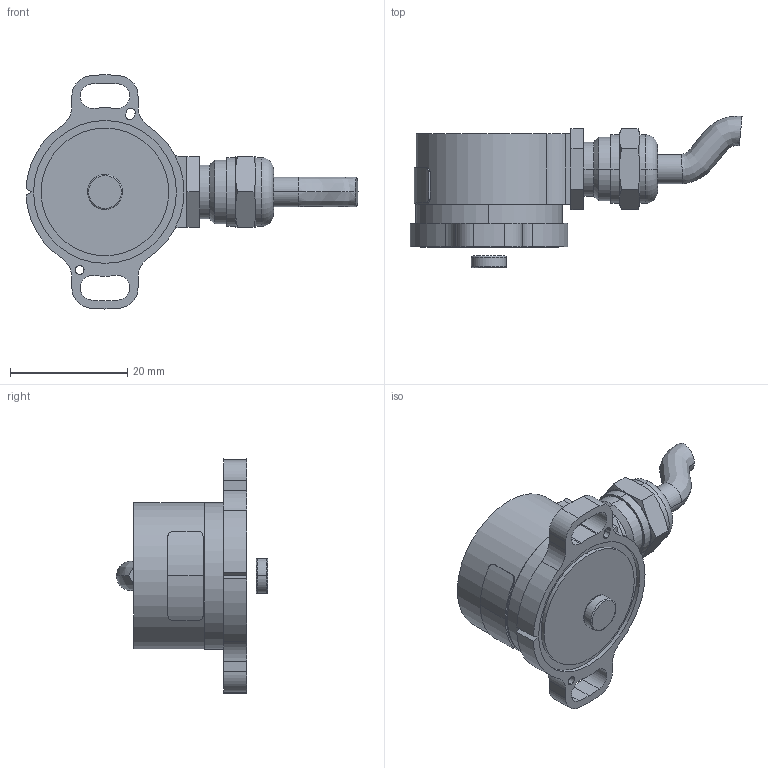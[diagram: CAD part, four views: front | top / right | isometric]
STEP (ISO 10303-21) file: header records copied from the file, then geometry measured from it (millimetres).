
FILE_DESCRIPTION (( 'STEP AP203' ), '1' );
FILE_NAME ('HTx Kit PG R S.STEP', '2022-07-29T10:27:13', ( '' ), ( '' ), 'SwSTEP 2.0', 'SolidWorks 2022', '' );
FILE_SCHEMA (( 'CONFIG_CONTROL_DESIGN' ));
Length unit declared in the file: millimetre
Products named in the file (1): HTx Kit PG R S
Bounding box: 56.72 x 25.88 x 39.98 mm (x, y, z)
Surface area: 5326 mm2 (no closed solid volume)
Topology: 0 solids, 6 shells, 126 faces, 314 edges, 204 vertices
Faces by surface type: cylinder 60, plane 42, cone 16, torus 6, bspline 2
Entity records: 4328 total; most frequent: CARTESIAN_POINT 1187, DIRECTION 674, ORIENTED_EDGE 606, EDGE_CURVE 314, AXIS2_PLACEMENT_3D 273, VERTEX_POINT 204, CIRCLE 148, EDGE_LOOP 146
